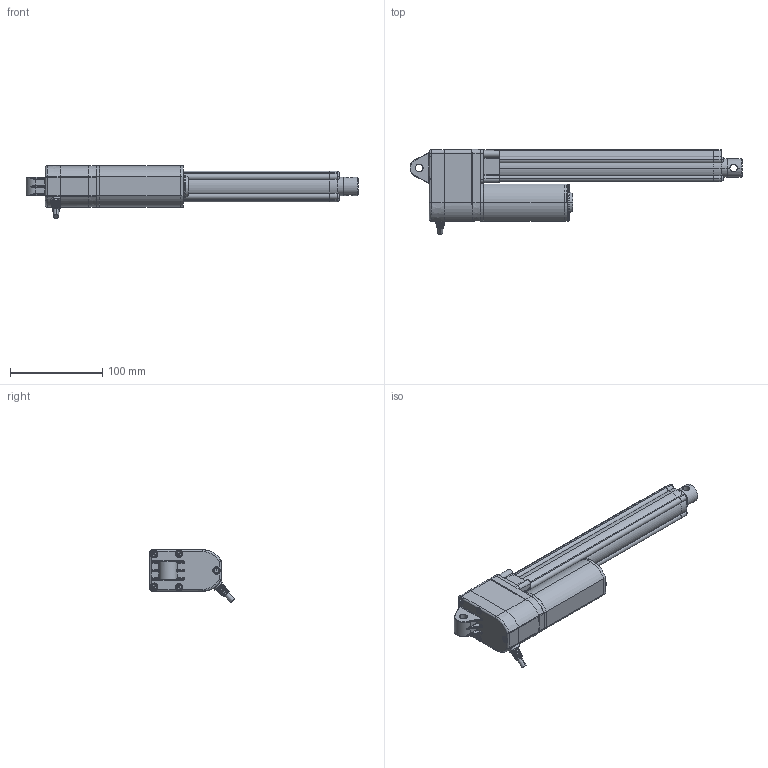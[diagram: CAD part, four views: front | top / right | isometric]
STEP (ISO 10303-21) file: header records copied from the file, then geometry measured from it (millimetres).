
FILE_DESCRIPTION(('STEP AP203'),'1');
FILE_NAME('dj809d1200340d2f011r01111111a01230619195517.stp','2025-06-19T19:55:22',('TraceParts'),('TraceParts S.A.'),'Spatial InterOp 3D',' ',' ');
FILE_SCHEMA(('CONFIG_CONTROL_DESIGN'));
Length unit declared in the file: millimetre
Products named in the file (1): 1
Bounding box: 359.11 x 92.14 x 56.99 mm (x, y, z)
Volume: 593302.7 mm3; surface area: 73118.4 mm2
Topology: 1 solids, 1 shells, 760 faces, 1998 edges, 1246 vertices
Faces by surface type: plane 305, cylinder 202, bspline 121, torus 74, cone 47, sphere 11
Entity records: 29954 total; most frequent: CARTESIAN_POINT 12178, ORIENTED_EDGE 3964, DIRECTION 3476, EDGE_CURVE 1982, AXIS2_PLACEMENT_3D 1323, VERTEX_POINT 1246, LINE 830, VECTOR 830
